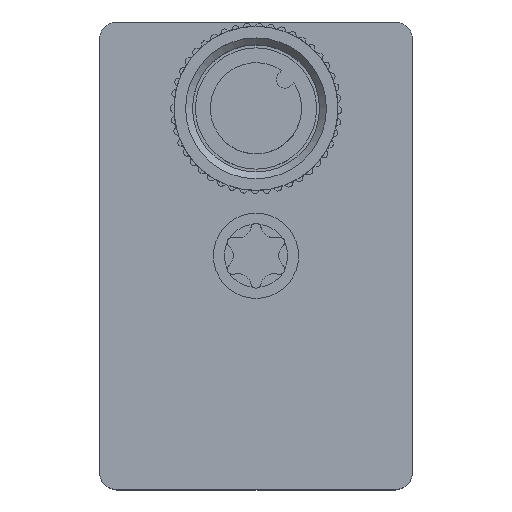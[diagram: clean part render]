
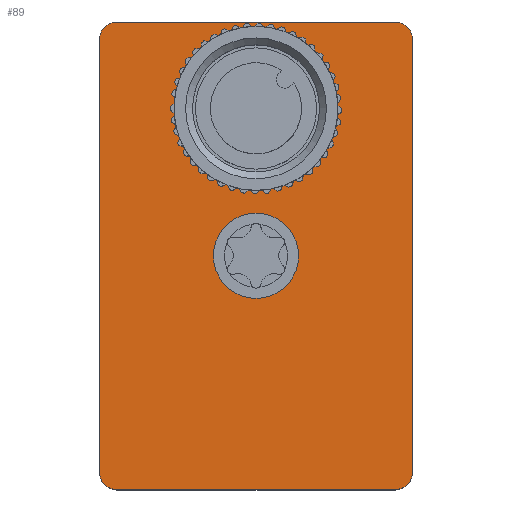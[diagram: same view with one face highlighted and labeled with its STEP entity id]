
A CAD part, top view. The second image highlights one B-rep face of the part: STEP entity #89.
In plain terms, the highlighted planar face has unit normal (0, 0, 1).
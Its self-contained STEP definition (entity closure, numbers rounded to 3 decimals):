
#89 = ADVANCED_FACE( '', ( #436, #437, #438 ), #439, .T. );
#436 = FACE_BOUND( '', #1119, .T. );
#437 = FACE_BOUND( '', #1120, .T. );
#438 = FACE_OUTER_BOUND( '', #1121, .T. );
#439 = PLANE( '', #1122 );
#1119 = EDGE_LOOP( '', ( #1870 ) );
#1120 = EDGE_LOOP( '', ( #1871 ) );
#1121 = EDGE_LOOP( '', ( #1872, #1873, #1874, #1875, #1876, #1877, #1878, #1879 ) );
#1122 = AXIS2_PLACEMENT_3D( '', #1880, #1881, #1882 );
#1870 = ORIENTED_EDGE( '', *, *, #4345, .F. );
#1871 = ORIENTED_EDGE( '', *, *, #4368, .T. );
#1872 = ORIENTED_EDGE( '', *, *, #4369, .T. );
#1873 = ORIENTED_EDGE( '', *, *, #4370, .T. );
#1874 = ORIENTED_EDGE( '', *, *, #4371, .T. );
#1875 = ORIENTED_EDGE( '', *, *, #4372, .T. );
#1876 = ORIENTED_EDGE( '', *, *, #4373, .T. );
#1877 = ORIENTED_EDGE( '', *, *, #4374, .T. );
#1878 = ORIENTED_EDGE( '', *, *, #4375, .T. );
#1879 = ORIENTED_EDGE( '', *, *, #4376, .T. );
#1880 = CARTESIAN_POINT( '', ( -12.05, 18.75, 0. ) );
#1881 = DIRECTION( '', ( 0., 0., 1. ) );
#1882 = DIRECTION( '', ( 1., 0., 0. ) );
#4345 = EDGE_CURVE( '', #5146, #5146, #5147, .T. );
#4368 = EDGE_CURVE( '', #5189, #5189, #5190, .T. );
#4369 = EDGE_CURVE( '', #5191, #5192, #5193, .T. );
#4370 = EDGE_CURVE( '', #5192, #5194, #5195, .T. );
#4371 = EDGE_CURVE( '', #5194, #5196, #5197, .T. );
#4372 = EDGE_CURVE( '', #5196, #5198, #5199, .T. );
#4373 = EDGE_CURVE( '', #5198, #5200, #5201, .T. );
#4374 = EDGE_CURVE( '', #5200, #5202, #5203, .T. );
#4375 = EDGE_CURVE( '', #5202, #5204, #5205, .T. );
#4376 = EDGE_CURVE( '', #5204, #5191, #5206, .T. );
#5146 = VERTEX_POINT( '', #6394 );
#5147 = CIRCLE( '', #6395, 3.69 );
#5189 = VERTEX_POINT( '', #6448 );
#5190 = CIRCLE( '', #6449, 4.7 );
#5191 = VERTEX_POINT( '', #6450 );
#5192 = VERTEX_POINT( '', #6451 );
#5193 = CIRCLE( '', #6452, 1.5 );
#5194 = VERTEX_POINT( '', #6453 );
#5195 = LINE( '', #6454, #6455 );
#5196 = VERTEX_POINT( '', #6456 );
#5197 = CIRCLE( '', #6457, 1.5 );
#5198 = VERTEX_POINT( '', #6458 );
#5199 = LINE( '', #6459, #6460 );
#5200 = VERTEX_POINT( '', #6461 );
#5201 = CIRCLE( '', #6462, 1.5 );
#5202 = VERTEX_POINT( '', #6463 );
#5203 = LINE( '', #6464, #6465 );
#5204 = VERTEX_POINT( '', #6466 );
#5205 = CIRCLE( '', #6467, 1.5 );
#5206 = LINE( '', #6468, #6469 );
#6394 = CARTESIAN_POINT( '', ( 3.69, 0., 0. ) );
#6395 = AXIS2_PLACEMENT_3D( '', #8120, #8121, #8122 );
#6448 = CARTESIAN_POINT( '', ( -4.7, 12.75, 0. ) );
#6449 = AXIS2_PLACEMENT_3D( '', #8167, #8168, #8169 );
#6450 = CARTESIAN_POINT( '', ( -12.05, 20.25, 0. ) );
#6451 = CARTESIAN_POINT( '', ( -13.55, 18.75, 0. ) );
#6452 = AXIS2_PLACEMENT_3D( '', #8170, #8171, #8172 );
#6453 = CARTESIAN_POINT( '', ( -13.55, -18.75, 0. ) );
#6454 = CARTESIAN_POINT( '', ( -13.55, 18.75, 0. ) );
#6455 = VECTOR( '', #8173, 1000. );
#6456 = CARTESIAN_POINT( '', ( -12.05, -20.25, 0. ) );
#6457 = AXIS2_PLACEMENT_3D( '', #8174, #8175, #8176 );
#6458 = CARTESIAN_POINT( '', ( 12.05, -20.25, 0. ) );
#6459 = CARTESIAN_POINT( '', ( -12.05, -20.25, 0. ) );
#6460 = VECTOR( '', #8177, 1000. );
#6461 = CARTESIAN_POINT( '', ( 13.55, -18.75, 0. ) );
#6462 = AXIS2_PLACEMENT_3D( '', #8178, #8179, #8180 );
#6463 = CARTESIAN_POINT( '', ( 13.55, 18.75, 0. ) );
#6464 = CARTESIAN_POINT( '', ( 13.55, -18.75, 0. ) );
#6465 = VECTOR( '', #8181, 1000. );
#6466 = CARTESIAN_POINT( '', ( 12.05, 20.25, 0. ) );
#6467 = AXIS2_PLACEMENT_3D( '', #8182, #8183, #8184 );
#6468 = CARTESIAN_POINT( '', ( 12.05, 20.25, 0. ) );
#6469 = VECTOR( '', #8185, 1000. );
#8120 = CARTESIAN_POINT( '', ( 0., 0., 0. ) );
#8121 = DIRECTION( '', ( 0., 0., 1. ) );
#8122 = DIRECTION( '', ( 1., 0., 0. ) );
#8167 = CARTESIAN_POINT( '', ( 0., 12.75, 0. ) );
#8168 = DIRECTION( '', ( 0., 0., -1. ) );
#8169 = DIRECTION( '', ( -1., 0., 0. ) );
#8170 = CARTESIAN_POINT( '', ( -12.05, 18.75, 0. ) );
#8171 = DIRECTION( '', ( 0., 0., 1. ) );
#8172 = DIRECTION( '', ( 1., 0., 0. ) );
#8173 = DIRECTION( '', ( 0., -1., 0. ) );
#8174 = CARTESIAN_POINT( '', ( -12.05, -18.75, 0. ) );
#8175 = DIRECTION( '', ( 0., 0., 1. ) );
#8176 = DIRECTION( '', ( 1., 0., 0. ) );
#8177 = DIRECTION( '', ( 1., 0., 0. ) );
#8178 = CARTESIAN_POINT( '', ( 12.05, -18.75, 0. ) );
#8179 = DIRECTION( '', ( 0., 0., 1. ) );
#8180 = DIRECTION( '', ( 1., 0., 0. ) );
#8181 = DIRECTION( '', ( 0., 1., 0. ) );
#8182 = CARTESIAN_POINT( '', ( 12.05, 18.75, 0. ) );
#8183 = DIRECTION( '', ( 0., 0., 1. ) );
#8184 = DIRECTION( '', ( 1., 0., 0. ) );
#8185 = DIRECTION( '', ( -1., 0., 0. ) );
